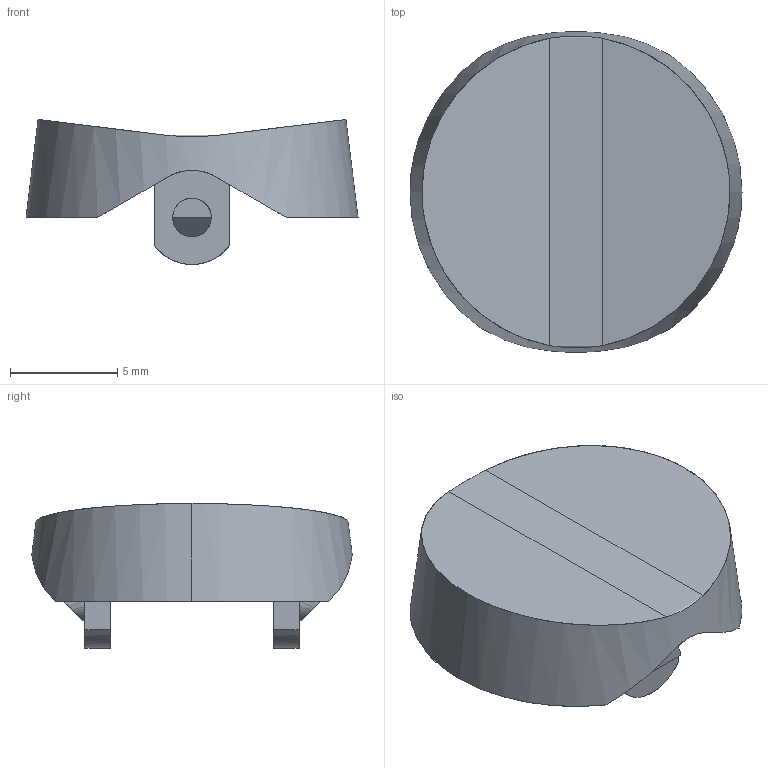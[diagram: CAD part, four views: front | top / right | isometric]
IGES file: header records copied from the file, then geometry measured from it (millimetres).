
Start section: Surface Model. Bezier boundary curves.
Global section: file name: 43_409_-007.igs; native system: TRANS-3D by CORETECH International; preprocessor: 2.1; date: 010916.101502; units: millimetre
Bounding box: 15.5 x 14.96 x 6.77 mm (x, y, z)
Surface area: 709.6 mm2 (no closed solid volume)
Topology: 0 solids, 0 shells, 266 faces, 1598 edges, 1598 vertices
Faces by surface type: bspline 266
